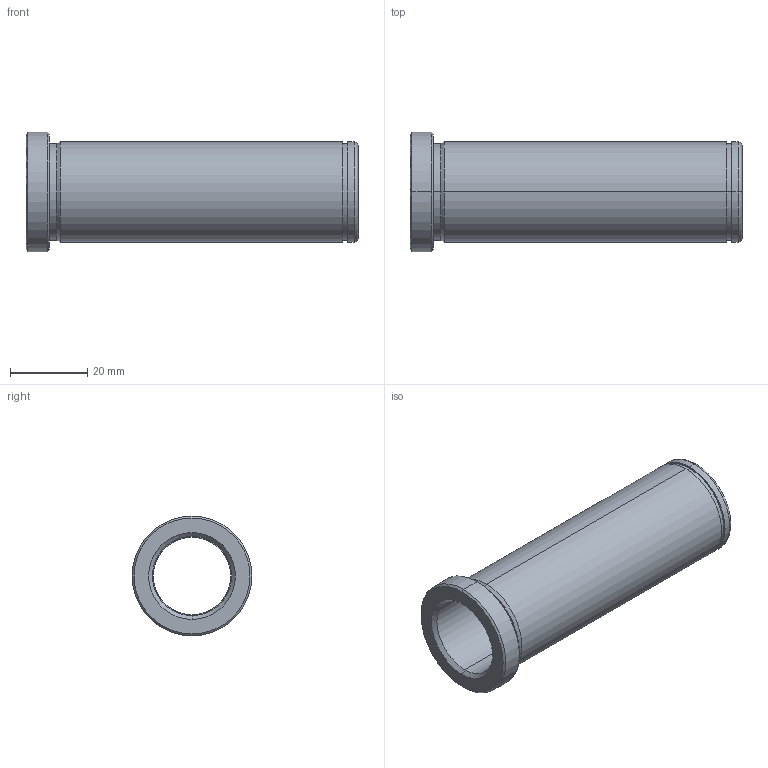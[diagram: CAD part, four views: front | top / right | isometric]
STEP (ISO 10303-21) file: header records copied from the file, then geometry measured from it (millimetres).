
FILE_DESCRIPTION(('CATIA V5 STEP Exchange'),'2;1');
FILE_NAME('C:\Users\Utente\Desktop\IO LAVORO\3D X SITO CF\X SITO\PLASTICA\553\553-20X86.stp','2021-05-23T17:59:34+00:00',('none'),('none'),'CATIA Version 5 Release 20 GA (IN-10)','CATIA V5 STEP AP203','none');
FILE_SCHEMA(('CONFIG_CONTROL_DESIGN'));
Length unit declared in the file: millimetre
Products named in the file (1): 553-20X86
Bounding box: 86 x 31 x 31 mm (x, y, z)
Volume: 19252.5 mm3; surface area: 13400.8 mm2
Topology: 1 solids, 1 shells, 32 faces, 102 edges, 76 vertices
Faces by surface type: cylinder 14, cone 8, plane 6, torus 4
Entity records: 1334 total; most frequent: CARTESIAN_POINT 389, ORIENTED_EDGE 204, DIRECTION 152, EDGE_CURVE 102, AXIS2_PLACEMENT_3D 99, VERTEX_POINT 76, CIRCLE 66, EDGE_LOOP 38
